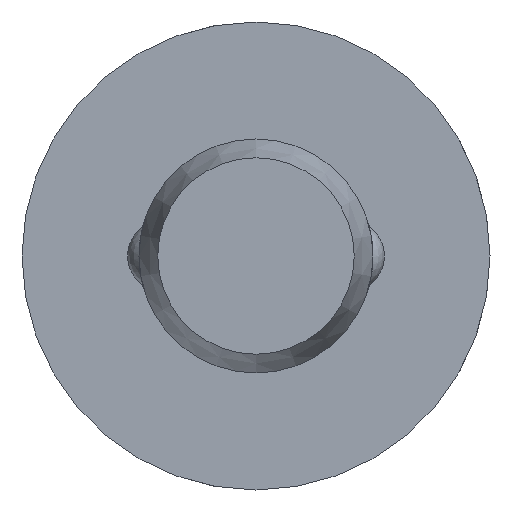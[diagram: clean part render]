
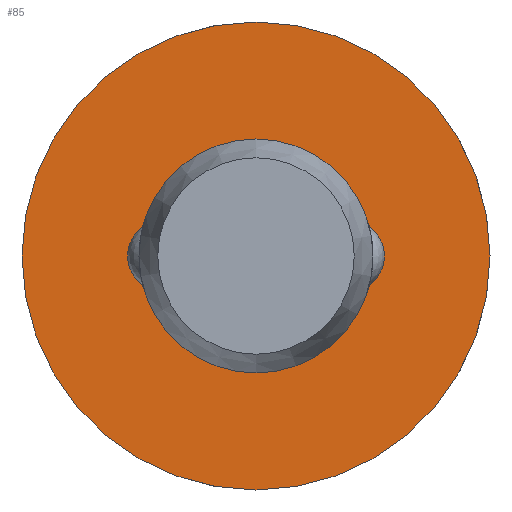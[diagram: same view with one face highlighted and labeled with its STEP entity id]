
A CAD part, left-side view. The second image highlights one B-rep face of the part: STEP entity #85.
In plain terms, the highlighted planar face has unit normal (-1, 0, 0).
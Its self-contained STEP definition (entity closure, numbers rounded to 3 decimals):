
#85 = ADVANCED_FACE( '', ( #131, #132 ), #133, .F. );
#131 = FACE_OUTER_BOUND( '', #204, .T. );
#132 = FACE_BOUND( '', #205, .T. );
#133 = PLANE( '', #206 );
#204 = EDGE_LOOP( '', ( #322 ) );
#205 = EDGE_LOOP( '', ( #323 ) );
#206 = AXIS2_PLACEMENT_3D( '', #324, #325, #326 );
#322 = ORIENTED_EDGE( '', *, *, #470, .F. );
#323 = ORIENTED_EDGE( '', *, *, #467, .T. );
#324 = CARTESIAN_POINT( '', ( 46., 2.5, 0. ) );
#325 = DIRECTION( '', ( 1., 0., 0. ) );
#326 = DIRECTION( '', ( 0., 0., -1. ) );
#467 = EDGE_CURVE( '', #541, #541, #542, .T. );
#470 = EDGE_CURVE( '', #547, #547, #548, .T. );
#541 = VERTEX_POINT( '', #749 );
#542 = CIRCLE( '', #750, 2.5 );
#547 = VERTEX_POINT( '', #801 );
#548 = CIRCLE( '', #802, 5. );
#749 = CARTESIAN_POINT( '', ( 46., 0., -2.5 ) );
#750 = AXIS2_PLACEMENT_3D( '', #881, #882, #883 );
#801 = CARTESIAN_POINT( '', ( 46., 0., -5. ) );
#802 = AXIS2_PLACEMENT_3D( '', #884, #885, #886 );
#881 = CARTESIAN_POINT( '', ( 46., 0., 0. ) );
#882 = DIRECTION( '', ( 1., 0., 0. ) );
#883 = DIRECTION( '', ( 0., 0., -1. ) );
#884 = CARTESIAN_POINT( '', ( 46., 0., 0. ) );
#885 = DIRECTION( '', ( 1., 0., 0. ) );
#886 = DIRECTION( '', ( 0., 0., -1. ) );
